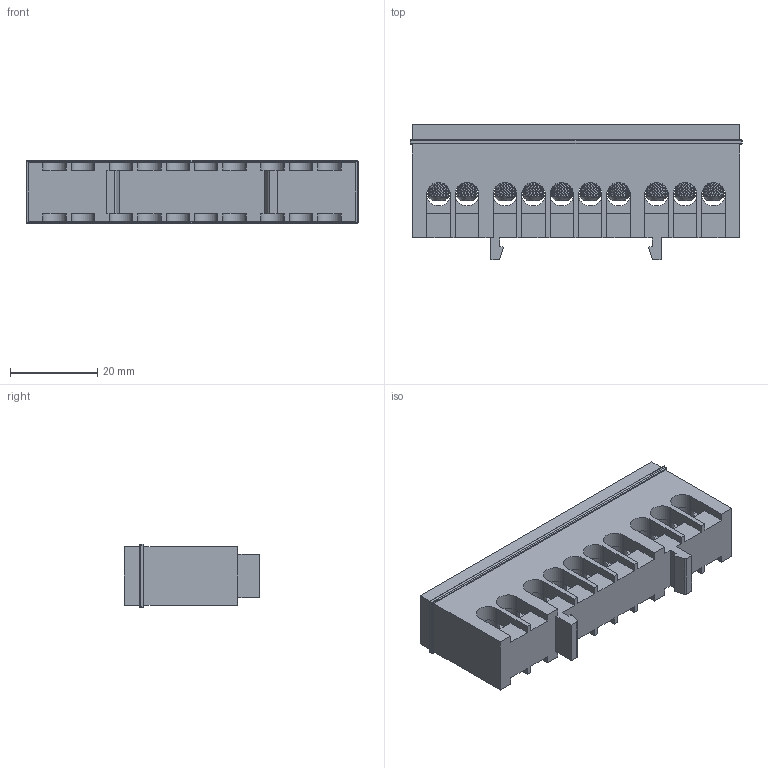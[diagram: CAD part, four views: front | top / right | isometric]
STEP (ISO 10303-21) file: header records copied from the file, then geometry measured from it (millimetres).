
FILE_DESCRIPTION (( 'STEP AP214' ), '1' );
FILE_NAME ('Øèíà íóëåâàÿ â èçîëÿöèè 6õ9 10.STEP', '2020-02-06T11:11:24', ( '' ), ( '' ), 'SwSTEP 2.0', 'SolidWorks 2018', '' );
FILE_SCHEMA (( 'AUTOMOTIVE_DESIGN' ));
Length unit declared in the file: millimetre
Products named in the file (4): Âèíò ì5; Øèíà íóëåâàÿ 6õ9 10; Èçîëÿöèÿ äëÿ øèíû íóëåâîé 6õ9 10; Øèíà íóëåâàÿ â èçîëÿöèè 6õ9 10
Assembly tree (12 placements, depth 2):
  Øèíà íóëåâàÿ â èçîëÿöèè 6õ9 10
    Èçîëÿöèÿ äëÿ øèíû íóëåâîé 6õ9 10
    Øèíà íóëåâàÿ 6õ9 10
    Âèíò ì5  x10
Bounding box: 76 x 31 x 14.5 mm (x, y, z)
Volume: 19319.7 mm3; surface area: 17031.4 mm2
Topology: 12 solids, 12 shells, 969 faces, 2827 edges, 1818 vertices
Faces by surface type: plane 384, cylinder 377, cone 100, torus 70, bspline 30, sphere 8
Entity records: 13262 total; most frequent: CARTESIAN_POINT 4572, ORIENTED_EDGE 1854, DIRECTION 1638, EDGE_CURVE 927, VECTOR 604, LINE 604, VERTEX_POINT 594, AXIS2_PLACEMENT_3D 517
